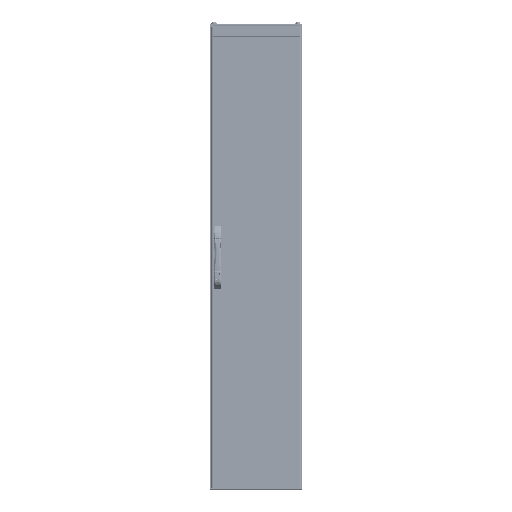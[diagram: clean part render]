
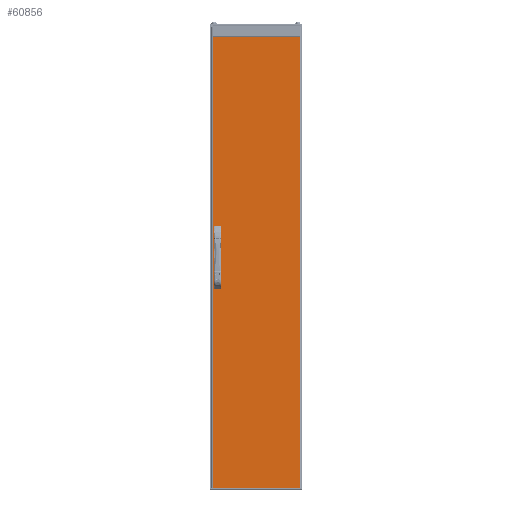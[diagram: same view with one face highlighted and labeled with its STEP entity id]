
A CAD part, top view. The second image highlights one B-rep face of the part: STEP entity #60856.
In plain terms, the highlighted planar face has unit normal (0, 0, 1) as drawn and (0, -1, 0) by its records, which use the part's own axes.
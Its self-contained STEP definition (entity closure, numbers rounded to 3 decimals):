
#2415 = FACE_BOUND ( 'NONE', #156881, .T. ) ;
#4788 = CARTESIAN_POINT ( 'NONE',  ( 958.75, 0., -14.645 ) ) ;
#9270 = VERTEX_POINT ( 'NONE', #61627 ) ;
#15621 = ORIENTED_EDGE ( 'NONE', *, *, #141198, .T. ) ;
#18549 = CIRCLE ( 'NONE', #128944, 2.85 ) ;
#22643 = EDGE_CURVE ( 'NONE', #154610, #105055, #186166, .T. ) ;
#27749 = VERTEX_POINT ( 'NONE', #223338 ) ;
#29003 = ORIENTED_EDGE ( 'NONE', *, *, #340296, .T. ) ;
#30829 = EDGE_CURVE ( 'NONE', #315207, #222740, #18549, .T. ) ;
#31747 = DIRECTION ( 'NONE',  ( 0., -1., 0. ) ) ;
#33439 = DIRECTION ( 'NONE',  ( 0., 1., 0. ) ) ;
#33465 = DIRECTION ( 'NONE',  ( 1., 0., 0. ) ) ;
#40808 = VERTEX_POINT ( 'NONE', #49004 ) ;
#40862 = EDGE_CURVE ( 'NONE', #139010, #110436, #204712, .T. ) ;
#41492 = CARTESIAN_POINT ( 'NONE',  ( 1024.25, 0., -14.645 ) ) ;
#43326 = ORIENTED_EDGE ( 'NONE', *, *, #292791, .T. ) ;
#49004 = CARTESIAN_POINT ( 'NONE',  ( 1983., 0., 0. ) ) ;
#49653 = CARTESIAN_POINT ( 'NONE',  ( 958.75, 0., -23.145 ) ) ;
#50945 = PLANE ( 'NONE',  #335759 ) ;
#58948 = AXIS2_PLACEMENT_3D ( 'NONE', #59316, #87013, #294566 ) ;
#59316 = CARTESIAN_POINT ( 'NONE',  ( 876.498, 0., -18.895 ) ) ;
#59425 = VECTOR ( 'NONE', #33465, 1000. ) ;
#59494 = DIRECTION ( 'NONE',  ( -1., 0., 0. ) ) ;
#60856 = ADVANCED_FACE ( 'NONE', ( #2415, #268693, #265306, #107903 ), #50945, .T. ) ;
#61138 = CARTESIAN_POINT ( 'NONE',  ( 0., 0., 0. ) ) ;
#61627 = CARTESIAN_POINT ( 'NONE',  ( 1983., 0., -372. ) ) ;
#65400 = VECTOR ( 'NONE', #59494, 1000. ) ;
#65485 = ORIENTED_EDGE ( 'NONE', *, *, #30829, .T. ) ;
#74066 = CARTESIAN_POINT ( 'NONE',  ( 876.498, 0., -18.895 ) ) ;
#74434 = CARTESIAN_POINT ( 'NONE',  ( 958.75, 0., -14.645 ) ) ;
#84723 = CARTESIAN_POINT ( 'NONE',  ( 876.498, 0., -16.045 ) ) ;
#87013 = DIRECTION ( 'NONE',  ( 0., 1., 0. ) ) ;
#87099 = DIRECTION ( 'NONE',  ( 0., 0., 1. ) ) ;
#88889 = CARTESIAN_POINT ( 'NONE',  ( 0., 0., -372. ) ) ;
#90177 = CARTESIAN_POINT ( 'NONE',  ( 0., 0., 0. ) ) ;
#90912 = DIRECTION ( 'NONE',  ( 0., 0., 1. ) ) ;
#91028 = VERTEX_POINT ( 'NONE', #41492 ) ;
#91987 = VECTOR ( 'NONE', #182289, 1000. ) ;
#94406 = ORIENTED_EDGE ( 'NONE', *, *, #264830, .F. ) ;
#94883 = VECTOR ( 'NONE', #272774, 1000. ) ;
#99321 = CARTESIAN_POINT ( 'NONE',  ( 1983., 0., 0. ) ) ;
#99998 = DIRECTION ( 'NONE',  ( 0., 1., 0. ) ) ;
#100938 = CARTESIAN_POINT ( 'NONE',  ( 0., 0., 0. ) ) ;
#103172 = ORIENTED_EDGE ( 'NONE', *, *, #126096, .T. ) ;
#105055 = VERTEX_POINT ( 'NONE', #127469 ) ;
#106082 = CARTESIAN_POINT ( 'NONE',  ( 1106.5, 0., -18.895 ) ) ;
#107903 = FACE_OUTER_BOUND ( 'NONE', #217580, .T. ) ;
#110436 = VERTEX_POINT ( 'NONE', #325263 ) ;
#119980 = CARTESIAN_POINT ( 'NONE',  ( 0., 0., -372. ) ) ;
#120631 = DIRECTION ( 'NONE',  ( 0., 0., 1. ) ) ;
#122344 = CARTESIAN_POINT ( 'NONE',  ( 1106.5, 0., -18.895 ) ) ;
#122908 = LINE ( 'NONE', #90177, #159474 ) ;
#124215 = ORIENTED_EDGE ( 'NONE', *, *, #224245, .T. ) ;
#126096 = EDGE_CURVE ( 'NONE', #321116, #218914, #277752, .T. ) ;
#127219 = ORIENTED_EDGE ( 'NONE', *, *, #22643, .T. ) ;
#127469 = CARTESIAN_POINT ( 'NONE',  ( 1106.5, 0., -16.045 ) ) ;
#128944 = AXIS2_PLACEMENT_3D ( 'NONE', #74066, #99998, #177820 ) ;
#129914 = ORIENTED_EDGE ( 'NONE', *, *, #162844, .T. ) ;
#135333 = DIRECTION ( 'NONE',  ( 0., 1., 0. ) ) ;
#137873 = EDGE_CURVE ( 'NONE', #40808, #27749, #341225, .T. ) ;
#139010 = VERTEX_POINT ( 'NONE', #119980 ) ;
#139829 = ORIENTED_EDGE ( 'NONE', *, *, #299130, .T. ) ;
#141198 = EDGE_CURVE ( 'NONE', #222740, #315207, #285382, .T. ) ;
#143669 = EDGE_CURVE ( 'NONE', #236883, #40808, #267017, .T. ) ;
#143691 = DIRECTION ( 'NONE',  ( 0., 0., 1. ) ) ;
#147441 = EDGE_CURVE ( 'NONE', #91028, #321116, #154979, .T. ) ;
#154610 = VERTEX_POINT ( 'NONE', #233452 ) ;
#154979 = CIRCLE ( 'NONE', #309050, 4.25 ) ;
#156881 = EDGE_LOOP ( 'NONE', ( #43326, #29003, #214027, #103172 ) ) ;
#159474 = VECTOR ( 'NONE', #143691, 1000. ) ;
#162192 = LINE ( 'NONE', #4788, #94883 ) ;
#162844 = EDGE_CURVE ( 'NONE', #105055, #154610, #278985, .T. ) ;
#165854 = EDGE_LOOP ( 'NONE', ( #15621, #65485 ) ) ;
#169774 = VERTEX_POINT ( 'NONE', #341695 ) ;
#175937 = DIRECTION ( 'NONE',  ( 0., 1., 0. ) ) ;
#176896 = CARTESIAN_POINT ( 'NONE',  ( 0., 0., -0.1 ) ) ;
#177820 = DIRECTION ( 'NONE',  ( 0., 0., 1. ) ) ;
#178864 = LINE ( 'NONE', #99321, #91987 ) ;
#179603 = DIRECTION ( 'NONE',  ( 0., 0., -1. ) ) ;
#181159 = DIRECTION ( 'NONE',  ( 0., 1., 0. ) ) ;
#182289 = DIRECTION ( 'NONE',  ( 0., 0., -1. ) ) ;
#184103 = CARTESIAN_POINT ( 'NONE',  ( 0., 0., -372. ) ) ;
#186166 = CIRCLE ( 'NONE', #230315, 2.85 ) ;
#186648 = AXIS2_PLACEMENT_3D ( 'NONE', #316067, #181159, #290064 ) ;
#192646 = LINE ( 'NONE', #88889, #65400 ) ;
#196419 = ORIENTED_EDGE ( 'NONE', *, *, #40862, .F. ) ;
#199837 = LINE ( 'NONE', #327867, #244063 ) ;
#203877 = CARTESIAN_POINT ( 'NONE',  ( 0., 0., -0.1 ) ) ;
#204712 = LINE ( 'NONE', #100938, #210398 ) ;
#206417 = DIRECTION ( 'NONE',  ( 0., 0., 1. ) ) ;
#210398 = VECTOR ( 'NONE', #206417, 1000. ) ;
#211558 = ORIENTED_EDGE ( 'NONE', *, *, #137873, .F. ) ;
#213405 = DIRECTION ( 'NONE',  ( 0., 0., -1. ) ) ;
#214027 = ORIENTED_EDGE ( 'NONE', *, *, #147441, .T. ) ;
#217580 = EDGE_LOOP ( 'NONE', ( #196419, #219483, #235157, #139829, #211558, #288168, #94406, #124215 ) ) ;
#218236 = AXIS2_PLACEMENT_3D ( 'NONE', #122344, #175937, #120631 ) ;
#218914 = VERTEX_POINT ( 'NONE', #49653 ) ;
#218945 = CARTESIAN_POINT ( 'NONE',  ( 0., 0., 0. ) ) ;
#219483 = ORIENTED_EDGE ( 'NONE', *, *, #293320, .F. ) ;
#222740 = VERTEX_POINT ( 'NONE', #84723 ) ;
#223338 = CARTESIAN_POINT ( 'NONE',  ( 1983., 0., -0.1 ) ) ;
#224138 = CARTESIAN_POINT ( 'NONE',  ( 958.75, 0., -23.145 ) ) ;
#224245 = EDGE_CURVE ( 'NONE', #270200, #110436, #255743, .T. ) ;
#227170 = VECTOR ( 'NONE', #305460, 1000. ) ;
#230315 = AXIS2_PLACEMENT_3D ( 'NONE', #106082, #135333, #341401 ) ;
#233452 = CARTESIAN_POINT ( 'NONE',  ( 1106.5, 0., -21.745 ) ) ;
#235157 = ORIENTED_EDGE ( 'NONE', *, *, #261637, .F. ) ;
#236883 = VERTEX_POINT ( 'NONE', #218945 ) ;
#244063 = VECTOR ( 'NONE', #90912, 1000. ) ;
#255743 = LINE ( 'NONE', #203877, #298204 ) ;
#261637 = EDGE_CURVE ( 'NONE', #169774, #9270, #178864, .T. ) ;
#264830 = EDGE_CURVE ( 'NONE', #270200, #236883, #122908, .T. ) ;
#265306 = FACE_BOUND ( 'NONE', #165854, .T. ) ;
#267017 = LINE ( 'NONE', #61138, #59425 ) ;
#268693 = FACE_BOUND ( 'NONE', #275096, .T. ) ;
#270200 = VERTEX_POINT ( 'NONE', #176896 ) ;
#271312 = VECTOR ( 'NONE', #296025, 1000. ) ;
#272774 = DIRECTION ( 'NONE',  ( 1., 0., 0. ) ) ;
#274689 = VERTEX_POINT ( 'NONE', #74434 ) ;
#275096 = EDGE_LOOP ( 'NONE', ( #129914, #127219 ) ) ;
#277752 = LINE ( 'NONE', #224138, #227170 ) ;
#278985 = CIRCLE ( 'NONE', #218236, 2.85 ) ;
#285382 = CIRCLE ( 'NONE', #58948, 2.85 ) ;
#286471 = CARTESIAN_POINT ( 'NONE',  ( 876.498, 0., -21.745 ) ) ;
#288168 = ORIENTED_EDGE ( 'NONE', *, *, #143669, .F. ) ;
#290064 = DIRECTION ( 'NONE',  ( 0., 0., 1. ) ) ;
#291571 = CIRCLE ( 'NONE', #186648, 4.25 ) ;
#292791 = EDGE_CURVE ( 'NONE', #218914, #274689, #291571, .T. ) ;
#293320 = EDGE_CURVE ( 'NONE', #9270, #139010, #192646, .T. ) ;
#294566 = DIRECTION ( 'NONE',  ( 0., 0., 1. ) ) ;
#296025 = DIRECTION ( 'NONE',  ( 0., 0., -1. ) ) ;
#296350 = CARTESIAN_POINT ( 'NONE',  ( 1024.25, 0., -18.895 ) ) ;
#298204 = VECTOR ( 'NONE', #179603, 1000. ) ;
#299130 = EDGE_CURVE ( 'NONE', #169774, #27749, #199837, .T. ) ;
#301470 = CARTESIAN_POINT ( 'NONE',  ( 1024.25, 0., -23.145 ) ) ;
#305460 = DIRECTION ( 'NONE',  ( -1., 0., 0. ) ) ;
#309050 = AXIS2_PLACEMENT_3D ( 'NONE', #296350, #33439, #87099 ) ;
#315207 = VERTEX_POINT ( 'NONE', #286471 ) ;
#315253 = CARTESIAN_POINT ( 'NONE',  ( 1983., 0., 0. ) ) ;
#316067 = CARTESIAN_POINT ( 'NONE',  ( 958.75, 0., -18.895 ) ) ;
#321116 = VERTEX_POINT ( 'NONE', #301470 ) ;
#325263 = CARTESIAN_POINT ( 'NONE',  ( 0., 0., -371.9 ) ) ;
#327867 = CARTESIAN_POINT ( 'NONE',  ( 1983., 0., -371.9 ) ) ;
#335759 = AXIS2_PLACEMENT_3D ( 'NONE', #184103, #31747, #213405 ) ;
#340296 = EDGE_CURVE ( 'NONE', #274689, #91028, #162192, .T. ) ;
#341225 = LINE ( 'NONE', #315253, #271312 ) ;
#341401 = DIRECTION ( 'NONE',  ( 0., 0., 1. ) ) ;
#341695 = CARTESIAN_POINT ( 'NONE',  ( 1983., 0., -371.9 ) ) ;
